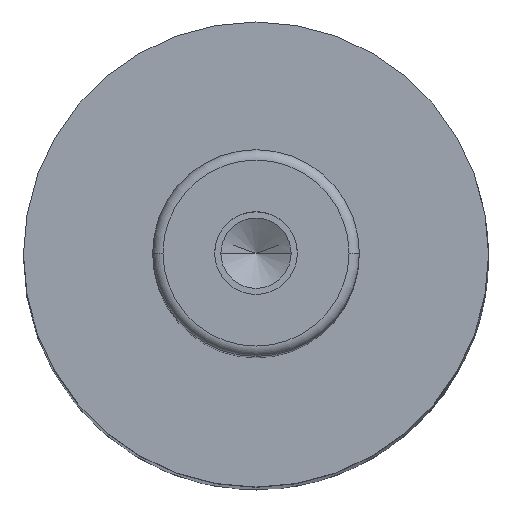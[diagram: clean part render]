
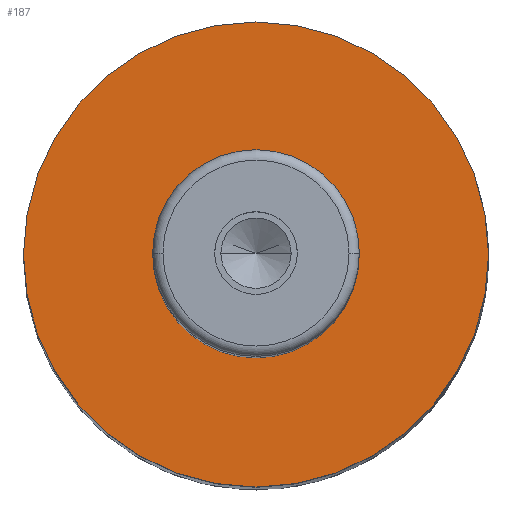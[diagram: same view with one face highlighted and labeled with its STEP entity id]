
A CAD part, top view. The second image highlights one B-rep face of the part: STEP entity #187.
In plain terms, the highlighted planar face has unit normal (0, 0, 1).
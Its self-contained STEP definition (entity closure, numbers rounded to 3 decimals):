
#107=PLANE('',#989);
#130=FACE_BOUND('',#298,.T.);
#131=FACE_BOUND('',#299,.T.);
#187=ADVANCED_FACE('',(#130,#131),#107,.T.);
#298=EDGE_LOOP('',(#463,#464));
#299=EDGE_LOOP('',(#465,#466));
#367=CIRCLE('',#983,10.);
#368=CIRCLE('',#985,10.);
#369=CIRCLE('',#987,22.5);
#370=CIRCLE('',#988,22.5);
#463=ORIENTED_EDGE('',*,*,#758,.F.);
#464=ORIENTED_EDGE('',*,*,#759,.F.);
#465=ORIENTED_EDGE('',*,*,#757,.T.);
#466=ORIENTED_EDGE('',*,*,#755,.T.);
#670=VERTEX_POINT('',#1421);
#671=VERTEX_POINT('',#1423);
#672=VERTEX_POINT('',#1429);
#673=VERTEX_POINT('',#1430);
#755=EDGE_CURVE('',#671,#670,#367,.T.);
#757=EDGE_CURVE('',#670,#671,#368,.T.);
#758=EDGE_CURVE('',#672,#673,#369,.T.);
#759=EDGE_CURVE('',#673,#672,#370,.T.);
#983=AXIS2_PLACEMENT_3D('',#1422,#1137,#1138);
#985=AXIS2_PLACEMENT_3D('',#1426,#1142,#1143);
#987=AXIS2_PLACEMENT_3D('',#1428,#1146,#1147);
#988=AXIS2_PLACEMENT_3D('',#1431,#1148,#1149);
#989=AXIS2_PLACEMENT_3D('',#1432,#1150,#1151);
#1137=DIRECTION('',(0.,0.,-1.));
#1138=DIRECTION('',(0.,1.,0.));
#1142=DIRECTION('',(0.,0.,-1.));
#1143=DIRECTION('',(0.,-1.,0.));
#1146=DIRECTION('',(0.,0.,-1.));
#1147=DIRECTION('',(0.,1.,0.));
#1148=DIRECTION('',(0.,0.,-1.));
#1149=DIRECTION('',(0.,-1.,0.));
#1150=DIRECTION('',(0.,0.,1.));
#1151=DIRECTION('',(0.,-1.,0.));
#1421=CARTESIAN_POINT('',(-10.,0.,163.));
#1422=CARTESIAN_POINT('',(0.,0.,163.));
#1423=CARTESIAN_POINT('',(10.,0.,163.));
#1426=CARTESIAN_POINT('',(0.,0.,163.));
#1428=CARTESIAN_POINT('',(0.,0.,163.));
#1429=CARTESIAN_POINT('',(22.5,0.,163.));
#1430=CARTESIAN_POINT('',(-22.5,0.,163.));
#1431=CARTESIAN_POINT('',(0.,0.,163.));
#1432=CARTESIAN_POINT('',(0.,0.,163.));
